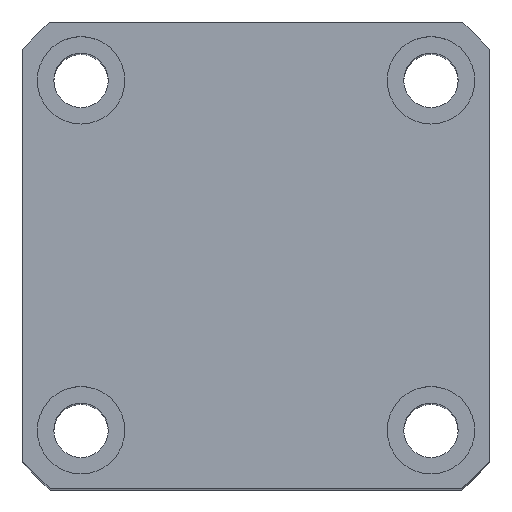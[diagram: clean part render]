
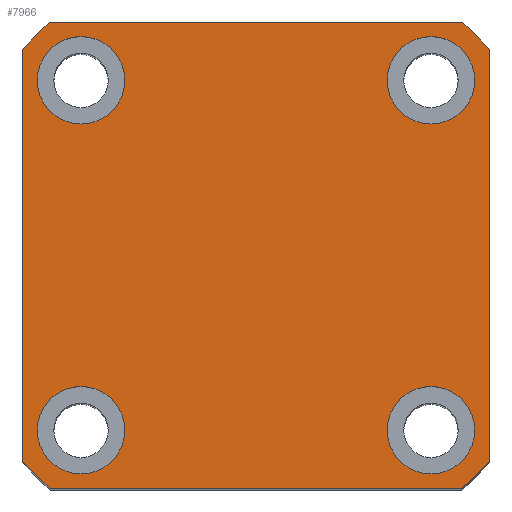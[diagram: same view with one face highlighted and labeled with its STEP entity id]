
A CAD part, top view. The second image highlights one B-rep face of the part: STEP entity #7966.
In plain terms, the highlighted planar face has unit normal (0, 0, 1) as drawn and (1, 0, 0) by its records, which use the part's own axes.
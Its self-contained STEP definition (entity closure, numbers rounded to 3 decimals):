
#17 = DIRECTION ( 'NONE',  ( 1., 0., 0. ) ) ;
#105 = CIRCLE ( 'NONE', #8027, 32. ) ;
#128 = DIRECTION ( 'NONE',  ( 1., 0., 0. ) ) ;
#164 = EDGE_LOOP ( 'NONE', ( #4595, #2115 ) ) ;
#202 = AXIS2_PLACEMENT_3D ( 'NONE', #1510, #7253, #2345 ) ;
#260 = CARTESIAN_POINT ( 'NONE',  ( 85., -18., 18. ) ) ;
#261 = EDGE_CURVE ( 'NONE', #6959, #4532, #10520, .T. ) ;
#524 = EDGE_CURVE ( 'NONE', #8186, #5818, #10015, .T. ) ;
#608 = VERTEX_POINT ( 'NONE', #4729 ) ;
#694 = ORIENTED_EDGE ( 'NONE', *, *, #10393, .F. ) ;
#750 = CARTESIAN_POINT ( 'NONE',  ( 85., -18., -18. ) ) ;
#799 = FACE_OUTER_BOUND ( 'NONE', #8713, .T. ) ;
#815 = VERTEX_POINT ( 'NONE', #1850 ) ;
#1072 = EDGE_CURVE ( 'NONE', #8930, #815, #7430, .T. ) ;
#1080 = DIRECTION ( 'NONE',  ( 0., 0., -1. ) ) ;
#1184 = CARTESIAN_POINT ( 'NONE',  ( 85., 24., 21.166 ) ) ;
#1257 = DIRECTION ( 'NONE',  ( 1., 0., 0. ) ) ;
#1285 = CARTESIAN_POINT ( 'NONE',  ( 85., -18., 18. ) ) ;
#1364 = ORIENTED_EDGE ( 'NONE', *, *, #3997, .T. ) ;
#1402 = CIRCLE ( 'NONE', #2209, 4.5 ) ;
#1425 = CARTESIAN_POINT ( 'NONE',  ( 85., 18., -22.5 ) ) ;
#1510 = CARTESIAN_POINT ( 'NONE',  ( 85., -18., -18. ) ) ;
#1572 = DIRECTION ( 'NONE',  ( 0., 0., -1. ) ) ;
#1622 = CARTESIAN_POINT ( 'NONE',  ( 85., 21.166, 24. ) ) ;
#1810 = CARTESIAN_POINT ( 'NONE',  ( 85., 0., 0. ) ) ;
#1834 = EDGE_CURVE ( 'NONE', #7777, #608, #4597, .T. ) ;
#1850 = CARTESIAN_POINT ( 'NONE',  ( 85., -18., -22.5 ) ) ;
#1900 = EDGE_CURVE ( 'NONE', #3688, #4793, #1915, .T. ) ;
#1905 = VECTOR ( 'NONE', #10510, 1000. ) ;
#1915 = CIRCLE ( 'NONE', #9074, 4.5 ) ;
#2115 = ORIENTED_EDGE ( 'NONE', *, *, #1072, .F. ) ;
#2130 = DIRECTION ( 'NONE',  ( 0., 0., -1. ) ) ;
#2142 = CARTESIAN_POINT ( 'NONE',  ( 85., 18., 18. ) ) ;
#2209 = AXIS2_PLACEMENT_3D ( 'NONE', #1285, #7047, #2130 ) ;
#2345 = DIRECTION ( 'NONE',  ( 0., 0., -1. ) ) ;
#2347 = VERTEX_POINT ( 'NONE', #9082 ) ;
#2378 = EDGE_LOOP ( 'NONE', ( #8704, #5211 ) ) ;
#2425 = CARTESIAN_POINT ( 'NONE',  ( 85., 24., 24. ) ) ;
#2523 = EDGE_CURVE ( 'NONE', #10480, #3014, #9234, .T. ) ;
#2543 = VECTOR ( 'NONE', #10301, 1000. ) ;
#2639 = DIRECTION ( 'NONE',  ( 0., 0., -1. ) ) ;
#2738 = EDGE_CURVE ( 'NONE', #4311, #2347, #8466, .T. ) ;
#2741 = EDGE_CURVE ( 'NONE', #815, #8930, #10360, .T. ) ;
#2777 = ORIENTED_EDGE ( 'NONE', *, *, #8465, .T. ) ;
#2784 = CARTESIAN_POINT ( 'NONE',  ( 85., -18., 22.5 ) ) ;
#2793 = DIRECTION ( 'NONE',  ( 1., 0., 0. ) ) ;
#2928 = ORIENTED_EDGE ( 'NONE', *, *, #4990, .T. ) ;
#2968 = DIRECTION ( 'NONE',  ( 0., 0., -1. ) ) ;
#2990 = FACE_BOUND ( 'NONE', #2378, .T. ) ;
#3014 = VERTEX_POINT ( 'NONE', #6799 ) ;
#3066 = AXIS2_PLACEMENT_3D ( 'NONE', #5503, #5473, #5438 ) ;
#3236 = ORIENTED_EDGE ( 'NONE', *, *, #2523, .F. ) ;
#3688 = VERTEX_POINT ( 'NONE', #7650 ) ;
#3740 = CIRCLE ( 'NONE', #5220, 4.5 ) ;
#3763 = CARTESIAN_POINT ( 'NONE',  ( 85., 24., -24. ) ) ;
#3857 = VECTOR ( 'NONE', #7372, 1000. ) ;
#3997 = EDGE_CURVE ( 'NONE', #2347, #9035, #105, .T. ) ;
#4024 = VERTEX_POINT ( 'NONE', #1184 ) ;
#4194 = CARTESIAN_POINT ( 'NONE',  ( 85., 18., -18. ) ) ;
#4257 = AXIS2_PLACEMENT_3D ( 'NONE', #6177, #1257, #7016 ) ;
#4311 = VERTEX_POINT ( 'NONE', #1622 ) ;
#4532 = VERTEX_POINT ( 'NONE', #6831 ) ;
#4586 = ORIENTED_EDGE ( 'NONE', *, *, #1834, .T. ) ;
#4595 = ORIENTED_EDGE ( 'NONE', *, *, #2741, .F. ) ;
#4597 = CIRCLE ( 'NONE', #7948, 32. ) ;
#4641 = CARTESIAN_POINT ( 'NONE',  ( 85., -24., 21.166 ) ) ;
#4729 = CARTESIAN_POINT ( 'NONE',  ( 85., 24., -21.166 ) ) ;
#4774 = CARTESIAN_POINT ( 'NONE',  ( 85., 24., 24. ) ) ;
#4793 = VERTEX_POINT ( 'NONE', #2784 ) ;
#4885 = CIRCLE ( 'NONE', #8493, 32. ) ;
#4927 = PLANE ( 'NONE',  #5079 ) ;
#4990 = EDGE_CURVE ( 'NONE', #5818, #7777, #9103, .T. ) ;
#5002 = DIRECTION ( 'NONE',  ( 0., 0., -1. ) ) ;
#5031 = CARTESIAN_POINT ( 'NONE',  ( 85., 0., 0. ) ) ;
#5079 = AXIS2_PLACEMENT_3D ( 'NONE', #10626, #17, #5750 ) ;
#5171 = FACE_BOUND ( 'NONE', #9201, .T. ) ;
#5211 = ORIENTED_EDGE ( 'NONE', *, *, #7592, .F. ) ;
#5220 = AXIS2_PLACEMENT_3D ( 'NONE', #4194, #9935, #5002 ) ;
#5274 = CARTESIAN_POINT ( 'NONE',  ( 85., -24., -21.166 ) ) ;
#5408 = FACE_BOUND ( 'NONE', #164, .T. ) ;
#5438 = DIRECTION ( 'NONE',  ( 0., 0., -1. ) ) ;
#5473 = DIRECTION ( 'NONE',  ( 1., 0., 0. ) ) ;
#5503 = CARTESIAN_POINT ( 'NONE',  ( 85., 0., 0. ) ) ;
#5750 = DIRECTION ( 'NONE',  ( 0., 0., -1. ) ) ;
#5818 = VERTEX_POINT ( 'NONE', #5876 ) ;
#5857 = DIRECTION ( 'NONE',  ( 0., 0., -1. ) ) ;
#5876 = CARTESIAN_POINT ( 'NONE',  ( 85., -21.166, -24. ) ) ;
#5994 = DIRECTION ( 'NONE',  ( 1., 0., 0. ) ) ;
#6177 = CARTESIAN_POINT ( 'NONE',  ( 85., 18., -18. ) ) ;
#6390 = CARTESIAN_POINT ( 'NONE',  ( 85., 21.166, -24. ) ) ;
#6436 = EDGE_LOOP ( 'NONE', ( #3236, #8382 ) ) ;
#6482 = DIRECTION ( 'NONE',  ( 1., 0., 0. ) ) ;
#6799 = CARTESIAN_POINT ( 'NONE',  ( 85., 18., -13.5 ) ) ;
#6831 = CARTESIAN_POINT ( 'NONE',  ( 85., 18., 22.5 ) ) ;
#6924 = CARTESIAN_POINT ( 'NONE',  ( 85., -18., -13.5 ) ) ;
#6944 = AXIS2_PLACEMENT_3D ( 'NONE', #2142, #7871, #2968 ) ;
#6959 = VERTEX_POINT ( 'NONE', #9021 ) ;
#6965 = VECTOR ( 'NONE', #7464, 1000. ) ;
#7016 = DIRECTION ( 'NONE',  ( 0., 0., -1. ) ) ;
#7047 = DIRECTION ( 'NONE',  ( 1., 0., 0. ) ) ;
#7253 = DIRECTION ( 'NONE',  ( 1., 0., 0. ) ) ;
#7372 = DIRECTION ( 'NONE',  ( 0., 0., 1. ) ) ;
#7378 = ORIENTED_EDGE ( 'NONE', *, *, #524, .T. ) ;
#7430 = CIRCLE ( 'NONE', #8385, 4.5 ) ;
#7464 = DIRECTION ( 'NONE',  ( 0., 0., -1. ) ) ;
#7540 = DIRECTION ( 'NONE',  ( 1., 0., 0. ) ) ;
#7553 = ORIENTED_EDGE ( 'NONE', *, *, #9214, .T. ) ;
#7592 = EDGE_CURVE ( 'NONE', #4532, #6959, #8909, .T. ) ;
#7650 = CARTESIAN_POINT ( 'NONE',  ( 85., -18., 13.5 ) ) ;
#7698 = CARTESIAN_POINT ( 'NONE',  ( 85., 0., 0. ) ) ;
#7777 = VERTEX_POINT ( 'NONE', #6390 ) ;
#7854 = ORIENTED_EDGE ( 'NONE', *, *, #1900, .F. ) ;
#7871 = DIRECTION ( 'NONE',  ( 1., 0., 0. ) ) ;
#7948 = AXIS2_PLACEMENT_3D ( 'NONE', #1810, #7540, #2639 ) ;
#7966 = ADVANCED_FACE ( 'NONE', ( #5408, #5171, #9538, #2990, #799 ), #4927, .T. ) ;
#8027 = AXIS2_PLACEMENT_3D ( 'NONE', #7698, #2793, #8540 ) ;
#8186 = VERTEX_POINT ( 'NONE', #5274 ) ;
#8382 = ORIENTED_EDGE ( 'NONE', *, *, #8766, .F. ) ;
#8385 = AXIS2_PLACEMENT_3D ( 'NONE', #750, #6482, #1572 ) ;
#8465 = EDGE_CURVE ( 'NONE', #9035, #8186, #9410, .T. ) ;
#8466 = LINE ( 'NONE', #4774, #1905 ) ;
#8493 = AXIS2_PLACEMENT_3D ( 'NONE', #5031, #128, #5857 ) ;
#8519 = LINE ( 'NONE', #2425, #3857 ) ;
#8540 = DIRECTION ( 'NONE',  ( 0., 0., -1. ) ) ;
#8704 = ORIENTED_EDGE ( 'NONE', *, *, #261, .F. ) ;
#8713 = EDGE_LOOP ( 'NONE', ( #2928, #4586, #7553, #9967, #9999, #1364, #2777, #7378 ) ) ;
#8766 = EDGE_CURVE ( 'NONE', #3014, #10480, #3740, .T. ) ;
#8909 = CIRCLE ( 'NONE', #6944, 4.5 ) ;
#8930 = VERTEX_POINT ( 'NONE', #6924 ) ;
#9021 = CARTESIAN_POINT ( 'NONE',  ( 85., 18., 13.5 ) ) ;
#9035 = VERTEX_POINT ( 'NONE', #4641 ) ;
#9074 = AXIS2_PLACEMENT_3D ( 'NONE', #260, #5994, #1080 ) ;
#9082 = CARTESIAN_POINT ( 'NONE',  ( 85., -21.166, 24. ) ) ;
#9103 = LINE ( 'NONE', #3763, #2543 ) ;
#9135 = CARTESIAN_POINT ( 'NONE',  ( 85., -24., 24. ) ) ;
#9201 = EDGE_LOOP ( 'NONE', ( #7854, #694 ) ) ;
#9214 = EDGE_CURVE ( 'NONE', #608, #4024, #8519, .T. ) ;
#9234 = CIRCLE ( 'NONE', #4257, 4.5 ) ;
#9410 = LINE ( 'NONE', #9135, #6965 ) ;
#9538 = FACE_BOUND ( 'NONE', #6436, .T. ) ;
#9796 = DIRECTION ( 'NONE',  ( 0., 0., -1. ) ) ;
#9879 = AXIS2_PLACEMENT_3D ( 'NONE', #9984, #9945, #9796 ) ;
#9935 = DIRECTION ( 'NONE',  ( 1., 0., 0. ) ) ;
#9945 = DIRECTION ( 'NONE',  ( 1., 0., 0. ) ) ;
#9967 = ORIENTED_EDGE ( 'NONE', *, *, #10098, .T. ) ;
#9984 = CARTESIAN_POINT ( 'NONE',  ( 85., 18., 18. ) ) ;
#9999 = ORIENTED_EDGE ( 'NONE', *, *, #2738, .T. ) ;
#10015 = CIRCLE ( 'NONE', #3066, 32. ) ;
#10098 = EDGE_CURVE ( 'NONE', #4024, #4311, #4885, .T. ) ;
#10301 = DIRECTION ( 'NONE',  ( 0., 1., 0. ) ) ;
#10360 = CIRCLE ( 'NONE', #202, 4.5 ) ;
#10393 = EDGE_CURVE ( 'NONE', #4793, #3688, #1402, .T. ) ;
#10480 = VERTEX_POINT ( 'NONE', #1425 ) ;
#10510 = DIRECTION ( 'NONE',  ( 0., -1., 0. ) ) ;
#10520 = CIRCLE ( 'NONE', #9879, 4.5 ) ;
#10626 = CARTESIAN_POINT ( 'NONE',  ( 85., 0., 0. ) ) ;
